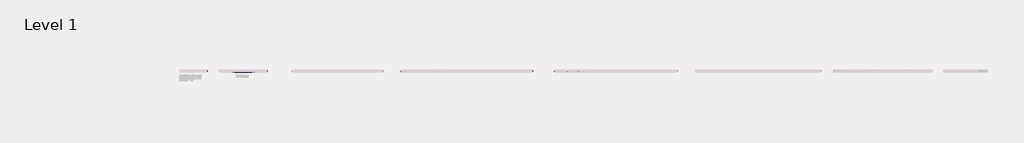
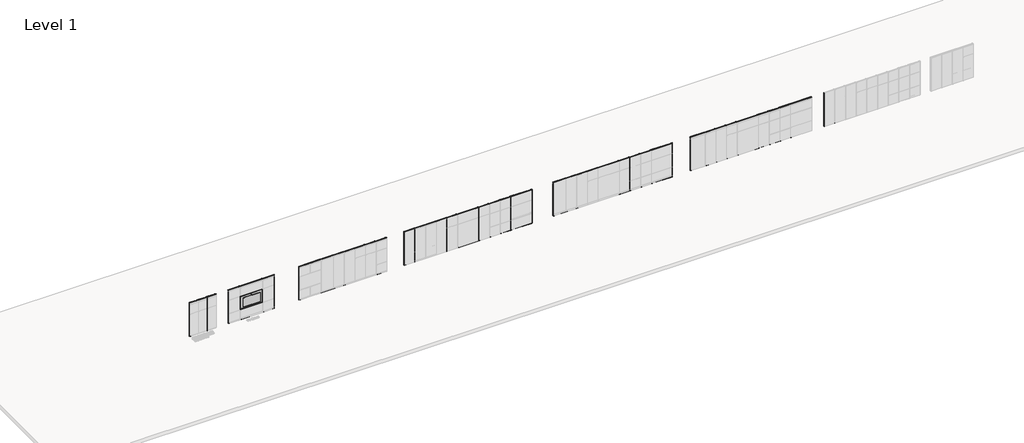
# One storey, part 1 of 22: 128 members, 1 plate.
"""IFC4 building model written with IfcOpenShell, lengths in millimetres."""

from ifc_helpers import new_model, si_unit, origin, place, context, project, spatial, transform, mapped, element, save
from components import rectangular_mullion_b90257fc, rectangular_mullion_eb0fbf71, rectangular_mullion_9c7541e2, rectangular_mullion_d1c44660, rectangular_mullion_44a558e4, rectangular_mullion_a3734a60, rectangular_mullion_c03277eb, rectangular_mullion_1fbba104, rectangular_mullion_acca460e, rectangular_mullion_f8e9f487, rectangular_mullion_f9391e24, rectangular_mullion_204a040b, rectangular_mullion_54c82f83, rectangular_mullion_553b35be, rectangular_mullion_d5ff06bb, rectangular_mullion_663af9d0, rectangular_mullion_43d97840, rectangular_mullion_frame_teknion_vertical_post_4f5934a5, rectangular_mullion_frame_teknion_vertical_post_1a075d46, rectangular_mullion_frame_teknion_vertical_post_dacf658e, rectangular_mullion_frame_teknion_vertical_post_05f5e206, rectangular_mullion_frame_teknion_vertical_post_5ea4eea9, rectangular_mullion_frame_teknion_vertical_post_1fa3a907, plate_87f0cef8

model = new_model("IFC4")

# Units and contexts
model_context = context("Model", 3, world=origin())
ifc_project = project(units=[si_unit("LENGTHUNIT", "METRE", prefix="MILLI")], contexts=[model_context])

# Site, building, storey
site = spatial("IfcSite", under=ifc_project)
building = spatial("IfcBuilding", under=site)
storey = spatial("IfcBuildingStorey", under=building, Name="Level 1", Elevation=0.0)

# Members
placement = place(None, origin())
rectangular_mullion_shape = rectangular_mullion_b90257fc(model_context)
element("IfcMember", 1, ObjectType="Rectangular Mullion : Frame-Teknion-Altos-Base_Channel", at=placement, inside=storey, context=model_context, shape_type="MappedRepresentation", body=[
    mapped(rectangular_mullion_shape, transform((-64490.3890569, 1812.3522105, 0.0), x_axis=(0.0, 0.0, -1.0), y_axis=(0.0, -1.0, 0.0), z_axis=(-1.0, 0.0, 0.0))),
])
rectangular_mullion_2_shape = rectangular_mullion_eb0fbf71(model_context)
element("IfcMember", 2, ObjectType="Rectangular Mullion : Frame-Teknion-Altos-Ceiling_Channel", at=placement, inside=storey, context=model_context, shape_type="MappedRepresentation", body=[
    mapped(rectangular_mullion_2_shape, transform((-63262.3585882, 1812.3522105, 3048.0), x_axis=(0.0, 0.0, 1.0), y_axis=(0.0, -1.0, 0.0), z_axis=(1.0, 0.0, 0.0))),
])
rectangular_mullion_3_shape = rectangular_mullion_9c7541e2(model_context)
element("IfcMember", 3, ObjectType="Rectangular Mullion : Frame-Teknion-Altos-Base_Channel", at=placement, inside=storey, context=model_context, shape_type="MappedRepresentation", body=[
    mapped(rectangular_mullion_3_shape, transform((-76250.5890569, 1812.3522105, 0.0), x_axis=(0.0, 0.0, -1.0), y_axis=(0.0, -1.0, 0.0), z_axis=(-1.0, 0.0, 0.0))),
])
element("IfcMember", 4, ObjectType="Rectangular Mullion : Frame-Teknion-Altos-Ceiling_Channel", at=placement, inside=storey, context=model_context, shape_type="MappedRepresentation", body=[
    mapped(rectangular_mullion_3_shape, transform((-75200.3585882, 1812.3522105, 3048.0), x_axis=(0.0, 0.0, 1.0), y_axis=(0.0, -1.0, 0.0), z_axis=(1.0, 0.0, 0.0))),
])
rectangular_mullion_4_shape = rectangular_mullion_d1c44660(model_context)
element("IfcMember", 5, ObjectType="Rectangular Mullion : Frame-Teknion-Altos-Ceiling_Channel", at=placement, inside=storey, context=model_context, shape_type="MappedRepresentation", body=[
    mapped(rectangular_mullion_4_shape, transform((-95139.3585882, 1812.3522105, 3048.0), x_axis=(0.0, 0.0, 1.0), y_axis=(0.0, -1.0, 0.0), z_axis=(1.0, 0.0, 0.0))),
])
element("IfcMember", 6, ObjectType="Rectangular Mullion : Frame-Teknion-Altos-Base_Channel", at=placement, inside=storey, context=model_context, shape_type="MappedRepresentation", body=[
    mapped(rectangular_mullion_4_shape, transform((-96165.4789007, 1812.3522105, 0.0), x_axis=(0.0, 0.0, -1.0), y_axis=(0.0, -1.0, 0.0), z_axis=(-1.0, 0.0, 0.0))),
])
rectangular_mullion_5_shape = rectangular_mullion_44a558e4(model_context)
element("IfcMember", 7, ObjectType="Rectangular Mullion : Frame-Teknion-Altos-Base_Channel", at=placement, inside=storey, context=model_context, shape_type="MappedRepresentation", body=[
    mapped(rectangular_mullion_5_shape, transform((-98043.7890569, 1812.3522105, 0.0), x_axis=(0.0, 0.0, -1.0), y_axis=(0.0, -1.0, 0.0), z_axis=(-1.0, 0.0, 0.0))),
])
element("IfcMember", 8, ObjectType="Rectangular Mullion : Frame-Teknion-Altos-Ceiling_Channel", at=placement, inside=storey, context=model_context, shape_type="MappedRepresentation", body=[
    mapped(rectangular_mullion_5_shape, transform((-96193.4585882, 1812.3522105, 3048.0), x_axis=(0.0, 0.0, 1.0), y_axis=(0.0, -1.0, 0.0), z_axis=(1.0, 0.0, 0.0))),
])
rectangular_mullion_6_shape = rectangular_mullion_a3734a60(model_context)
element("IfcMember", 9, ObjectType="Rectangular Mullion : Frame-Teknion-Altos-Ceiling_Channel", at=placement, inside=storey, context=model_context, shape_type="MappedRepresentation", body=[
    mapped(rectangular_mullion_6_shape, transform((-101195.0754287, 1812.3522105, 3048.0), x_axis=(0.0, 0.0, 1.0), y_axis=(0.0, 1.0, 0.0), z_axis=(-1.0, 0.0, 0.0))),
])
element("IfcMember", 10, ObjectType="Rectangular Mullion : Frame-Teknion-Altos-Ceiling_Channel", at=placement, inside=storey, context=model_context, shape_type="MappedRepresentation", body=[
    mapped(rectangular_mullion_6_shape, transform((-104141.4754287, 1812.3522105, 3048.0), x_axis=(0.0, 0.0, 1.0), y_axis=(0.0, 1.0, 0.0), z_axis=(-1.0, 0.0, 0.0))),
])
rectangular_mullion_7_shape = rectangular_mullion_c03277eb(model_context)
element("IfcMember", 11, ObjectType="Rectangular Mullion : Frame-Teknion-Altos-Ceiling_Channel", at=placement, inside=storey, context=model_context, shape_type="MappedRepresentation", body=[
    mapped(rectangular_mullion_7_shape, transform((-103125.4754287, 1812.3522105, 3048.0), x_axis=(0.0, 0.0, 1.0), y_axis=(0.0, 1.0, 0.0), z_axis=(-1.0, 0.0, 0.0))),
])
rectangular_mullion_8_shape = rectangular_mullion_1fbba104(model_context)
element("IfcMember", 12, ObjectType="Rectangular Mullion : Frame-Teknion-Altos-Base_Channel", at=placement, inside=storey, context=model_context, shape_type="MappedRepresentation", body=[
    mapped(rectangular_mullion_8_shape, transform((-100207.0551162, 1812.3522105, 0.0), x_axis=(0.0, 0.0, -1.0), y_axis=(0.0, 1.0, 0.0), z_axis=(1.0, 0.0, 0.0))),
])
element("IfcMember", 13, ObjectType="Rectangular Mullion : Frame-Teknion-Altos-Base_Channel", at=placement, inside=storey, context=model_context, shape_type="MappedRepresentation", body=[
    mapped(rectangular_mullion_8_shape, transform((-103139.4652725, 1812.3522105, 0.0), x_axis=(0.0, 0.0, -1.0), y_axis=(0.0, 1.0, 0.0), z_axis=(1.0, 0.0, 0.0))),
])
rectangular_mullion_9_shape = rectangular_mullion_acca460e(model_context)
element("IfcMember", 14, ObjectType="Rectangular Mullion : Frame-Teknion-Altos-Base_Channel", at=placement, inside=storey, context=model_context, shape_type="MappedRepresentation", body=[
    mapped(rectangular_mullion_9_shape, transform((-101209.0652725, 1812.3522105, 0.0), x_axis=(0.0, 0.0, -1.0), y_axis=(0.0, 1.0, 0.0), z_axis=(1.0, 0.0, 0.0))),
])
rectangular_mullion_10_shape = rectangular_mullion_f8e9f487(model_context)
element("IfcMember", 15, ObjectType="Rectangular Mullion : Frame-Teknion-Altos-Ceiling_Channel", at=placement, inside=storey, context=model_context, shape_type="MappedRepresentation", body=[
    mapped(rectangular_mullion_10_shape, transform((-105208.0723087, 1812.3522105, 3048.0), x_axis=(0.0, 0.0, 1.0), y_axis=(0.0, -1.0, 0.0), z_axis=(1.0, 0.0, 0.0))),
])
element("IfcMember", 16, ObjectType="Rectangular Mullion : Frame-Teknion-Altos-Ceiling_Channel", at=placement, inside=storey, context=model_context, shape_type="MappedRepresentation", body=[
    mapped(rectangular_mullion_10_shape, transform((-106718.0824649, 1812.3522105, 3048.0), x_axis=(0.0, 0.0, 1.0), y_axis=(0.0, -1.0, 0.0), z_axis=(1.0, 0.0, 0.0))),
])
rectangular_mullion_11_shape = rectangular_mullion_f9391e24(model_context)
element("IfcMember", 17, ObjectType="Rectangular Mullion : Frame-Teknion-Altos-Base_Channel", at=placement, inside=storey, context=model_context, shape_type="MappedRepresentation", body=[
    mapped(rectangular_mullion_11_shape, transform((-107438.1129337, 1812.3522105, 0.0), x_axis=(0.0, 0.0, -1.0), y_axis=(0.0, -1.0, 0.0), z_axis=(-1.0, 0.0, 0.0))),
])
element("IfcMember", 18, ObjectType="Rectangular Mullion : Frame-Teknion-Altos-Base_Channel", at=placement, inside=storey, context=model_context, shape_type="MappedRepresentation", body=[
    mapped(rectangular_mullion_11_shape, transform((-105928.1027774, 1812.3522105, 0.0), x_axis=(0.0, 0.0, -1.0), y_axis=(0.0, -1.0, 0.0), z_axis=(-1.0, 0.0, 0.0))),
])
rectangular_mullion_12_shape = rectangular_mullion_204a040b(model_context)
element("IfcMember", 19, ObjectType="Rectangular Mullion : Frame-Teknion-Altos-Base_Channel", at=placement, inside=storey, context=model_context, shape_type="MappedRepresentation", body=[
    mapped(rectangular_mullion_12_shape, transform((-106690.1027774, 1812.3522105, 0.0), x_axis=(0.0, 0.0, -1.0), y_axis=(0.0, -1.0, 0.0), z_axis=(-1.0, 0.0, 0.0))),
])
element("IfcMember", 20, ObjectType="Rectangular Mullion : Frame-Teknion-Altos-Ceiling_Channel", at=placement, inside=storey, context=model_context, shape_type="MappedRepresentation", body=[
    mapped(rectangular_mullion_12_shape, transform((-105956.0824649, 1812.3522105, 3048.0), x_axis=(0.0, 0.0, 1.0), y_axis=(0.0, -1.0, 0.0), z_axis=(1.0, 0.0, 0.0))),
])
rectangular_mullion_13_shape = rectangular_mullion_54c82f83(model_context)
element("IfcMember", 21, ObjectType="Rectangular Mullion : Frame-Teknion-Altos-Ceiling_Channel", at=placement, inside=storey, context=model_context, shape_type="MappedRepresentation", body=[
    mapped(rectangular_mullion_13_shape, transform((-90581.3484319, 1812.3522105, 3048.0), x_axis=(0.0, 0.0, 1.0), y_axis=(0.0, -1.0, 0.0), z_axis=(1.0, 0.0, 0.0))),
])
element("IfcMember", 22, ObjectType="Rectangular Mullion : Frame-Teknion-Altos-Ceiling_Channel", at=placement, inside=storey, context=model_context, shape_type="MappedRepresentation", body=[
    mapped(rectangular_mullion_13_shape, transform((-88154.3585882, 1812.3522105, 3048.0), x_axis=(0.0, 0.0, 1.0), y_axis=(0.0, -1.0, 0.0), z_axis=(1.0, 0.0, 0.0))),
])
rectangular_mullion_14_shape = rectangular_mullion_553b35be(model_context)
element("IfcMember", 23, ObjectType="Rectangular Mullion : Frame-Teknion-Altos-Base_Channel", at=placement, inside=storey, context=model_context, shape_type="MappedRepresentation", body=[
    mapped(rectangular_mullion_14_shape, transform((-89026.7890569, 1812.3522105, 0.0), x_axis=(0.0, 0.0, -1.0), y_axis=(0.0, -1.0, 0.0), z_axis=(-1.0, 0.0, 0.0))),
])
element("IfcMember", 24, ObjectType="Rectangular Mullion : Frame-Teknion-Altos-Base_Channel", at=placement, inside=storey, context=model_context, shape_type="MappedRepresentation", body=[
    mapped(rectangular_mullion_14_shape, transform((-53009.5890569, 1812.3522105, 0.0), x_axis=(0.0, 0.0, -1.0), y_axis=(0.0, -1.0, 0.0), z_axis=(-1.0, 0.0, 0.0))),
])
element("IfcMember", 25, ObjectType="Rectangular Mullion : Frame-Teknion-Altos-Base_Channel", at=placement, inside=storey, context=model_context, shape_type="MappedRepresentation", body=[
    mapped(rectangular_mullion_14_shape, transform((-91453.7789007, 1812.3522105, 0.0), x_axis=(0.0, 0.0, -1.0), y_axis=(0.0, -1.0, 0.0), z_axis=(-1.0, 0.0, 0.0))),
])
rectangular_mullion_15_shape = rectangular_mullion_d5ff06bb(model_context)
element("IfcMember", 26, ObjectType="Rectangular Mullion : Frame-Teknion-Altos-Base_Channel", at=placement, inside=storey, context=model_context, shape_type="MappedRepresentation", body=[
    mapped(rectangular_mullion_15_shape, transform((-94196.9789007, 1812.3522105, 0.0), x_axis=(0.0, 0.0, -1.0), y_axis=(0.0, -1.0, 0.0), z_axis=(-1.0, 0.0, 0.0))),
])
element("IfcMember", 27, ObjectType="Rectangular Mullion : Frame-Teknion-Altos-Base_Channel", at=placement, inside=storey, context=model_context, shape_type="MappedRepresentation", body=[
    mapped(rectangular_mullion_15_shape, transform((-93282.5789007, 1812.3522105, 0.0), x_axis=(0.0, 0.0, -1.0), y_axis=(0.0, -1.0, 0.0), z_axis=(-1.0, 0.0, 0.0))),
])
element("IfcMember", 28, ObjectType="Rectangular Mullion : Frame-Teknion-Altos-Base_Channel", at=placement, inside=storey, context=model_context, shape_type="MappedRepresentation", body=[
    mapped(rectangular_mullion_15_shape, transform((-92368.1789007, 1812.3522105, 0.0), x_axis=(0.0, 0.0, -1.0), y_axis=(0.0, -1.0, 0.0), z_axis=(-1.0, 0.0, 0.0))),
])
element("IfcMember", 29, ObjectType="Rectangular Mullion : Frame-Teknion-Altos-Base_Channel", at=placement, inside=storey, context=model_context, shape_type="MappedRepresentation", body=[
    mapped(rectangular_mullion_15_shape, transform((-95111.3789007, 1812.3522105, 0.0), x_axis=(0.0, 0.0, -1.0), y_axis=(0.0, -1.0, 0.0), z_axis=(-1.0, 0.0, 0.0))),
])
element("IfcMember", 30, ObjectType="Rectangular Mullion : Frame-Teknion-Altos-Base_Channel", at=placement, inside=storey, context=model_context, shape_type="MappedRepresentation", body=[
    mapped(rectangular_mullion_15_shape, transform((-86297.5789007, 1812.3522105, 0.0), x_axis=(0.0, 0.0, -1.0), y_axis=(0.0, -1.0, 0.0), z_axis=(-1.0, 0.0, 0.0))),
])
element("IfcMember", 31, ObjectType="Rectangular Mullion : Frame-Teknion-Altos-Base_Channel", at=placement, inside=storey, context=model_context, shape_type="MappedRepresentation", body=[
    mapped(rectangular_mullion_15_shape, transform((-85383.1789007, 1812.3522105, 0.0), x_axis=(0.0, 0.0, -1.0), y_axis=(0.0, -1.0, 0.0), z_axis=(-1.0, 0.0, 0.0))),
])
element("IfcMember", 32, ObjectType="Rectangular Mullion : Frame-Teknion-Altos-Base_Channel", at=placement, inside=storey, context=model_context, shape_type="MappedRepresentation", body=[
    mapped(rectangular_mullion_15_shape, transform((-82639.9789007, 1812.3522105, 0.0), x_axis=(0.0, 0.0, -1.0), y_axis=(0.0, -1.0, 0.0), z_axis=(-1.0, 0.0, 0.0))),
])
element("IfcMember", 33, ObjectType="Rectangular Mullion : Frame-Teknion-Altos-Base_Channel", at=placement, inside=storey, context=model_context, shape_type="MappedRepresentation", body=[
    mapped(rectangular_mullion_15_shape, transform((-81725.5789007, 1812.3522105, 0.0), x_axis=(0.0, 0.0, -1.0), y_axis=(0.0, -1.0, 0.0), z_axis=(-1.0, 0.0, 0.0))),
])
element("IfcMember", 34, ObjectType="Rectangular Mullion : Frame-Teknion-Altos-Base_Channel", at=placement, inside=storey, context=model_context, shape_type="MappedRepresentation", body=[
    mapped(rectangular_mullion_15_shape, transform((-80811.1789007, 1812.3522105, 0.0), x_axis=(0.0, 0.0, -1.0), y_axis=(0.0, -1.0, 0.0), z_axis=(-1.0, 0.0, 0.0))),
])
element("IfcMember", 35, ObjectType="Rectangular Mullion : Frame-Teknion-Altos-Base_Channel", at=placement, inside=storey, context=model_context, shape_type="MappedRepresentation", body=[
    mapped(rectangular_mullion_15_shape, transform((-75172.3789007, 1812.3522105, 0.0), x_axis=(0.0, 0.0, -1.0), y_axis=(0.0, -1.0, 0.0), z_axis=(-1.0, 0.0, 0.0))),
])
element("IfcMember", 36, ObjectType="Rectangular Mullion : Frame-Teknion-Altos-Base_Channel", at=placement, inside=storey, context=model_context, shape_type="MappedRepresentation", body=[
    mapped(rectangular_mullion_15_shape, transform((-74257.9789007, 1812.3522105, 0.0), x_axis=(0.0, 0.0, -1.0), y_axis=(0.0, -1.0, 0.0), z_axis=(-1.0, 0.0, 0.0))),
])
element("IfcMember", 37, ObjectType="Rectangular Mullion : Frame-Teknion-Altos-Base_Channel", at=placement, inside=storey, context=model_context, shape_type="MappedRepresentation", body=[
    mapped(rectangular_mullion_15_shape, transform((-73343.5789007, 1812.3522105, 0.0), x_axis=(0.0, 0.0, -1.0), y_axis=(0.0, -1.0, 0.0), z_axis=(-1.0, 0.0, 0.0))),
])
element("IfcMember", 38, ObjectType="Rectangular Mullion : Frame-Teknion-Altos-Base_Channel", at=placement, inside=storey, context=model_context, shape_type="MappedRepresentation", body=[
    mapped(rectangular_mullion_15_shape, transform((-70600.3789007, 1812.3522105, 0.0), x_axis=(0.0, 0.0, -1.0), y_axis=(0.0, -1.0, 0.0), z_axis=(-1.0, 0.0, 0.0))),
])
element("IfcMember", 39, ObjectType="Rectangular Mullion : Frame-Teknion-Altos-Base_Channel", at=placement, inside=storey, context=model_context, shape_type="MappedRepresentation", body=[
    mapped(rectangular_mullion_15_shape, transform((-69685.9789007, 1812.3522105, 0.0), x_axis=(0.0, 0.0, -1.0), y_axis=(0.0, -1.0, 0.0), z_axis=(-1.0, 0.0, 0.0))),
])
element("IfcMember", 40, ObjectType="Rectangular Mullion : Frame-Teknion-Altos-Base_Channel", at=placement, inside=storey, context=model_context, shape_type="MappedRepresentation", body=[
    mapped(rectangular_mullion_15_shape, transform((-68771.5789007, 1812.3522105, 0.0), x_axis=(0.0, 0.0, -1.0), y_axis=(0.0, -1.0, 0.0), z_axis=(-1.0, 0.0, 0.0))),
])
element("IfcMember", 41, ObjectType="Rectangular Mullion : Frame-Teknion-Altos-Base_Channel", at=placement, inside=storey, context=model_context, shape_type="MappedRepresentation", body=[
    mapped(rectangular_mullion_15_shape, transform((-63234.3789007, 1812.3522105, 0.0), x_axis=(0.0, 0.0, -1.0), y_axis=(0.0, -1.0, 0.0), z_axis=(-1.0, 0.0, 0.0))),
])
element("IfcMember", 42, ObjectType="Rectangular Mullion : Frame-Teknion-Altos-Base_Channel", at=placement, inside=storey, context=model_context, shape_type="MappedRepresentation", body=[
    mapped(rectangular_mullion_15_shape, transform((-62319.9789007, 1812.3522105, 0.0), x_axis=(0.0, 0.0, -1.0), y_axis=(0.0, -1.0, 0.0), z_axis=(-1.0, 0.0, 0.0))),
])
element("IfcMember", 43, ObjectType="Rectangular Mullion : Frame-Teknion-Altos-Base_Channel", at=placement, inside=storey, context=model_context, shape_type="MappedRepresentation", body=[
    mapped(rectangular_mullion_15_shape, transform((-61405.5789007, 1812.3522105, 0.0), x_axis=(0.0, 0.0, -1.0), y_axis=(0.0, -1.0, 0.0), z_axis=(-1.0, 0.0, 0.0))),
])
element("IfcMember", 44, ObjectType="Rectangular Mullion : Frame-Teknion-Altos-Base_Channel", at=placement, inside=storey, context=model_context, shape_type="MappedRepresentation", body=[
    mapped(rectangular_mullion_15_shape, transform((-58662.3789007, 1812.3522105, 0.0), x_axis=(0.0, 0.0, -1.0), y_axis=(0.0, -1.0, 0.0), z_axis=(-1.0, 0.0, 0.0))),
])
element("IfcMember", 45, ObjectType="Rectangular Mullion : Frame-Teknion-Altos-Base_Channel", at=placement, inside=storey, context=model_context, shape_type="MappedRepresentation", body=[
    mapped(rectangular_mullion_15_shape, transform((-57747.9789007, 1812.3522105, 0.0), x_axis=(0.0, 0.0, -1.0), y_axis=(0.0, -1.0, 0.0), z_axis=(-1.0, 0.0, 0.0))),
])
element("IfcMember", 46, ObjectType="Rectangular Mullion : Frame-Teknion-Altos-Base_Channel", at=placement, inside=storey, context=model_context, shape_type="MappedRepresentation", body=[
    mapped(rectangular_mullion_15_shape, transform((-56833.5789007, 1812.3522105, 0.0), x_axis=(0.0, 0.0, -1.0), y_axis=(0.0, -1.0, 0.0), z_axis=(-1.0, 0.0, 0.0))),
])
element("IfcMember", 47, ObjectType="Rectangular Mullion : Frame-Teknion-Altos-Ceiling_Channel", at=placement, inside=storey, context=model_context, shape_type="MappedRepresentation", body=[
    mapped(rectangular_mullion_15_shape, transform((-94224.9585882, 1812.3522105, 3048.0), x_axis=(0.0, 0.0, 1.0), y_axis=(0.0, -1.0, 0.0), z_axis=(1.0, 0.0, 0.0))),
])
element("IfcMember", 48, ObjectType="Rectangular Mullion : Frame-Teknion-Altos-Ceiling_Channel", at=placement, inside=storey, context=model_context, shape_type="MappedRepresentation", body=[
    mapped(rectangular_mullion_15_shape, transform((-93310.5585882, 1812.3522105, 3048.0), x_axis=(0.0, 0.0, 1.0), y_axis=(0.0, -1.0, 0.0), z_axis=(1.0, 0.0, 0.0))),
])
element("IfcMember", 49, ObjectType="Rectangular Mullion : Frame-Teknion-Altos-Ceiling_Channel", at=placement, inside=storey, context=model_context, shape_type="MappedRepresentation", body=[
    mapped(rectangular_mullion_15_shape, transform((-92396.1585882, 1812.3522105, 3048.0), x_axis=(0.0, 0.0, 1.0), y_axis=(0.0, -1.0, 0.0), z_axis=(1.0, 0.0, 0.0))),
])
element("IfcMember", 50, ObjectType="Rectangular Mullion : Frame-Teknion-Altos-Ceiling_Channel", at=placement, inside=storey, context=model_context, shape_type="MappedRepresentation", body=[
    mapped(rectangular_mullion_15_shape, transform((-91481.7585882, 1812.3522105, 3048.0), x_axis=(0.0, 0.0, 1.0), y_axis=(0.0, -1.0, 0.0), z_axis=(1.0, 0.0, 0.0))),
])
element("IfcMember", 51, ObjectType="Rectangular Mullion : Frame-Teknion-Altos-Ceiling_Channel", at=placement, inside=storey, context=model_context, shape_type="MappedRepresentation", body=[
    mapped(rectangular_mullion_15_shape, transform((-85411.1585882, 1812.3522105, 3048.0), x_axis=(0.0, 0.0, 1.0), y_axis=(0.0, -1.0, 0.0), z_axis=(1.0, 0.0, 0.0))),
])
element("IfcMember", 52, ObjectType="Rectangular Mullion : Frame-Teknion-Altos-Ceiling_Channel", at=placement, inside=storey, context=model_context, shape_type="MappedRepresentation", body=[
    mapped(rectangular_mullion_15_shape, transform((-84496.7585882, 1812.3522105, 3048.0), x_axis=(0.0, 0.0, 1.0), y_axis=(0.0, -1.0, 0.0), z_axis=(1.0, 0.0, 0.0))),
])
element("IfcMember", 53, ObjectType="Rectangular Mullion : Frame-Teknion-Altos-Ceiling_Channel", at=placement, inside=storey, context=model_context, shape_type="MappedRepresentation", body=[
    mapped(rectangular_mullion_15_shape, transform((-81753.5585882, 1812.3522105, 3048.0), x_axis=(0.0, 0.0, 1.0), y_axis=(0.0, -1.0, 0.0), z_axis=(1.0, 0.0, 0.0))),
])
element("IfcMember", 54, ObjectType="Rectangular Mullion : Frame-Teknion-Altos-Ceiling_Channel", at=placement, inside=storey, context=model_context, shape_type="MappedRepresentation", body=[
    mapped(rectangular_mullion_15_shape, transform((-79924.7585882, 1812.3522105, 3048.0), x_axis=(0.0, 0.0, 1.0), y_axis=(0.0, -1.0, 0.0), z_axis=(1.0, 0.0, 0.0))),
])
element("IfcMember", 55, ObjectType="Rectangular Mullion : Frame-Teknion-Altos-Ceiling_Channel", at=placement, inside=storey, context=model_context, shape_type="MappedRepresentation", body=[
    mapped(rectangular_mullion_15_shape, transform((-80839.1585882, 1812.3522105, 3048.0), x_axis=(0.0, 0.0, 1.0), y_axis=(0.0, -1.0, 0.0), z_axis=(1.0, 0.0, 0.0))),
])
element("IfcMember", 56, ObjectType="Rectangular Mullion : Frame-Teknion-Altos-Ceiling_Channel", at=placement, inside=storey, context=model_context, shape_type="MappedRepresentation", body=[
    mapped(rectangular_mullion_15_shape, transform((-74285.9585882, 1812.3522105, 3048.0), x_axis=(0.0, 0.0, 1.0), y_axis=(0.0, -1.0, 0.0), z_axis=(1.0, 0.0, 0.0))),
])
element("IfcMember", 57, ObjectType="Rectangular Mullion : Frame-Teknion-Altos-Ceiling_Channel", at=placement, inside=storey, context=model_context, shape_type="MappedRepresentation", body=[
    mapped(rectangular_mullion_15_shape, transform((-73371.5585882, 1812.3522105, 3048.0), x_axis=(0.0, 0.0, 1.0), y_axis=(0.0, -1.0, 0.0), z_axis=(1.0, 0.0, 0.0))),
])
element("IfcMember", 58, ObjectType="Rectangular Mullion : Frame-Teknion-Altos-Ceiling_Channel", at=placement, inside=storey, context=model_context, shape_type="MappedRepresentation", body=[
    mapped(rectangular_mullion_15_shape, transform((-72457.1585882, 1812.3522105, 3048.0), x_axis=(0.0, 0.0, 1.0), y_axis=(0.0, -1.0, 0.0), z_axis=(1.0, 0.0, 0.0))),
])
element("IfcMember", 59, ObjectType="Rectangular Mullion : Frame-Teknion-Altos-Ceiling_Channel", at=placement, inside=storey, context=model_context, shape_type="MappedRepresentation", body=[
    mapped(rectangular_mullion_15_shape, transform((-69713.9585882, 1812.3522105, 3048.0), x_axis=(0.0, 0.0, 1.0), y_axis=(0.0, -1.0, 0.0), z_axis=(1.0, 0.0, 0.0))),
])
element("IfcMember", 60, ObjectType="Rectangular Mullion : Frame-Teknion-Altos-Ceiling_Channel", at=placement, inside=storey, context=model_context, shape_type="MappedRepresentation", body=[
    mapped(rectangular_mullion_15_shape, transform((-68799.5585882, 1812.3522105, 3048.0), x_axis=(0.0, 0.0, 1.0), y_axis=(0.0, -1.0, 0.0), z_axis=(1.0, 0.0, 0.0))),
])
element("IfcMember", 61, ObjectType="Rectangular Mullion : Frame-Teknion-Altos-Ceiling_Channel", at=placement, inside=storey, context=model_context, shape_type="MappedRepresentation", body=[
    mapped(rectangular_mullion_15_shape, transform((-67885.1585882, 1812.3522105, 3048.0), x_axis=(0.0, 0.0, 1.0), y_axis=(0.0, -1.0, 0.0), z_axis=(1.0, 0.0, 0.0))),
])
element("IfcMember", 62, ObjectType="Rectangular Mullion : Frame-Teknion-Altos-Ceiling_Channel", at=placement, inside=storey, context=model_context, shape_type="MappedRepresentation", body=[
    mapped(rectangular_mullion_15_shape, transform((-62347.9585882, 1812.3522105, 3048.0), x_axis=(0.0, 0.0, 1.0), y_axis=(0.0, -1.0, 0.0), z_axis=(1.0, 0.0, 0.0))),
])
element("IfcMember", 63, ObjectType="Rectangular Mullion : Frame-Teknion-Altos-Ceiling_Channel", at=placement, inside=storey, context=model_context, shape_type="MappedRepresentation", body=[
    mapped(rectangular_mullion_15_shape, transform((-61433.5585882, 1812.3522105, 3048.0), x_axis=(0.0, 0.0, 1.0), y_axis=(0.0, -1.0, 0.0), z_axis=(1.0, 0.0, 0.0))),
])
element("IfcMember", 64, ObjectType="Rectangular Mullion : Frame-Teknion-Altos-Ceiling_Channel", at=placement, inside=storey, context=model_context, shape_type="MappedRepresentation", body=[
    mapped(rectangular_mullion_15_shape, transform((-60519.1585882, 1812.3522105, 3048.0), x_axis=(0.0, 0.0, 1.0), y_axis=(0.0, -1.0, 0.0), z_axis=(1.0, 0.0, 0.0))),
])
element("IfcMember", 65, ObjectType="Rectangular Mullion : Frame-Teknion-Altos-Ceiling_Channel", at=placement, inside=storey, context=model_context, shape_type="MappedRepresentation", body=[
    mapped(rectangular_mullion_15_shape, transform((-57775.9585882, 1812.3522105, 3048.0), x_axis=(0.0, 0.0, 1.0), y_axis=(0.0, -1.0, 0.0), z_axis=(1.0, 0.0, 0.0))),
])
element("IfcMember", 66, ObjectType="Rectangular Mullion : Frame-Teknion-Altos-Ceiling_Channel", at=placement, inside=storey, context=model_context, shape_type="MappedRepresentation", body=[
    mapped(rectangular_mullion_15_shape, transform((-56861.5585882, 1812.3522105, 3048.0), x_axis=(0.0, 0.0, 1.0), y_axis=(0.0, -1.0, 0.0), z_axis=(1.0, 0.0, 0.0))),
])
element("IfcMember", 67, ObjectType="Rectangular Mullion : Frame-Teknion-Altos-Ceiling_Channel", at=placement, inside=storey, context=model_context, shape_type="MappedRepresentation", body=[
    mapped(rectangular_mullion_15_shape, transform((-55947.1585882, 1812.3522105, 3048.0), x_axis=(0.0, 0.0, 1.0), y_axis=(0.0, -1.0, 0.0), z_axis=(1.0, 0.0, 0.0))),
])
rectangular_mullion_16_shape = rectangular_mullion_663af9d0(model_context)
element("IfcMember", 68, ObjectType="Rectangular Mullion : Frame-Teknion-Altos-Ceiling_Channel", at=placement, inside=storey, context=model_context, shape_type="MappedRepresentation", body=[
    mapped(rectangular_mullion_16_shape, transform((-78109.9484319, 1812.3522105, 3048.0), x_axis=(0.0, 0.0, 1.0), y_axis=(0.0, -1.0, 0.0), z_axis=(1.0, 0.0, 0.0))),
])
element("IfcMember", 69, ObjectType="Rectangular Mullion : Frame-Teknion-Altos-Ceiling_Channel", at=placement, inside=storey, context=model_context, shape_type="MappedRepresentation", body=[
    mapped(rectangular_mullion_16_shape, transform((-66070.3484319, 1812.3522105, 3048.0), x_axis=(0.0, 0.0, 1.0), y_axis=(0.0, -1.0, 0.0), z_axis=(1.0, 0.0, 0.0))),
])
element("IfcMember", 70, ObjectType="Rectangular Mullion : Frame-Teknion-Altos-Ceiling_Channel", at=placement, inside=storey, context=model_context, shape_type="MappedRepresentation", body=[
    mapped(rectangular_mullion_16_shape, transform((-54132.3484319, 1812.3522105, 3048.0), x_axis=(0.0, 0.0, 1.0), y_axis=(0.0, -1.0, 0.0), z_axis=(1.0, 0.0, 0.0))),
])
element("IfcMember", 71, ObjectType="Rectangular Mullion : Frame-Teknion-Altos-Base_Channel", at=placement, inside=storey, context=model_context, shape_type="MappedRepresentation", body=[
    mapped(rectangular_mullion_16_shape, transform((-79896.7789007, 1812.3522105, 0.0), x_axis=(0.0, 0.0, -1.0), y_axis=(0.0, -1.0, 0.0), z_axis=(-1.0, 0.0, 0.0))),
])
element("IfcMember", 72, ObjectType="Rectangular Mullion : Frame-Teknion-Altos-Base_Channel", at=placement, inside=storey, context=model_context, shape_type="MappedRepresentation", body=[
    mapped(rectangular_mullion_16_shape, transform((-67857.1789007, 1812.3522105, 0.0), x_axis=(0.0, 0.0, -1.0), y_axis=(0.0, -1.0, 0.0), z_axis=(-1.0, 0.0, 0.0))),
])
element("IfcMember", 73, ObjectType="Rectangular Mullion : Frame-Teknion-Altos-Base_Channel", at=placement, inside=storey, context=model_context, shape_type="MappedRepresentation", body=[
    mapped(rectangular_mullion_16_shape, transform((-55919.1789007, 1812.3522105, 0.0), x_axis=(0.0, 0.0, -1.0), y_axis=(0.0, -1.0, 0.0), z_axis=(-1.0, 0.0, 0.0))),
])
rectangular_mullion_17_shape = rectangular_mullion_43d97840(model_context)
element("IfcMember", 74, ObjectType="Rectangular Mullion : Frame-Teknion-Altos-Base_Channel", at=placement, inside=storey, context=model_context, shape_type="MappedRepresentation", body=[
    mapped(rectangular_mullion_17_shape, transform((-84468.7789007, 1812.3522105, 0.0), x_axis=(0.0, 0.0, -1.0), y_axis=(0.0, -1.0, 0.0), z_axis=(-1.0, 0.0, 0.0))),
])
element("IfcMember", 75, ObjectType="Rectangular Mullion : Frame-Teknion-Altos-Base_Channel", at=placement, inside=storey, context=model_context, shape_type="MappedRepresentation", body=[
    mapped(rectangular_mullion_17_shape, transform((-88126.3789007, 1812.3522105, 0.0), x_axis=(0.0, 0.0, -1.0), y_axis=(0.0, -1.0, 0.0), z_axis=(-1.0, 0.0, 0.0))),
])
element("IfcMember", 76, ObjectType="Rectangular Mullion : Frame-Teknion-Altos-Base_Channel", at=placement, inside=storey, context=model_context, shape_type="MappedRepresentation", body=[
    mapped(rectangular_mullion_17_shape, transform((-72429.1789007, 1812.3522105, 0.0), x_axis=(0.0, 0.0, -1.0), y_axis=(0.0, -1.0, 0.0), z_axis=(-1.0, 0.0, 0.0))),
])
element("IfcMember", 77, ObjectType="Rectangular Mullion : Frame-Teknion-Altos-Base_Channel", at=placement, inside=storey, context=model_context, shape_type="MappedRepresentation", body=[
    mapped(rectangular_mullion_17_shape, transform((-60491.1789007, 1812.3522105, 0.0), x_axis=(0.0, 0.0, -1.0), y_axis=(0.0, -1.0, 0.0), z_axis=(-1.0, 0.0, 0.0))),
])
element("IfcMember", 78, ObjectType="Rectangular Mullion : Frame-Teknion-Altos-Ceiling_Channel", at=placement, inside=storey, context=model_context, shape_type="MappedRepresentation", body=[
    mapped(rectangular_mullion_17_shape, transform((-86325.5585882, 1812.3522105, 3048.0), x_axis=(0.0, 0.0, 1.0), y_axis=(0.0, -1.0, 0.0), z_axis=(1.0, 0.0, 0.0))),
])
element("IfcMember", 79, ObjectType="Rectangular Mullion : Frame-Teknion-Altos-Ceiling_Channel", at=placement, inside=storey, context=model_context, shape_type="MappedRepresentation", body=[
    mapped(rectangular_mullion_17_shape, transform((-82667.9585882, 1812.3522105, 3048.0), x_axis=(0.0, 0.0, 1.0), y_axis=(0.0, -1.0, 0.0), z_axis=(1.0, 0.0, 0.0))),
])
element("IfcMember", 80, ObjectType="Rectangular Mullion : Frame-Teknion-Altos-Ceiling_Channel", at=placement, inside=storey, context=model_context, shape_type="MappedRepresentation", body=[
    mapped(rectangular_mullion_17_shape, transform((-70628.3585882, 1812.3522105, 3048.0), x_axis=(0.0, 0.0, 1.0), y_axis=(0.0, -1.0, 0.0), z_axis=(1.0, 0.0, 0.0))),
])
element("IfcMember", 81, ObjectType="Rectangular Mullion : Frame-Teknion-Altos-Ceiling_Channel", at=placement, inside=storey, context=model_context, shape_type="MappedRepresentation", body=[
    mapped(rectangular_mullion_17_shape, transform((-58690.3585882, 1812.3522105, 3048.0), x_axis=(0.0, 0.0, 1.0), y_axis=(0.0, -1.0, 0.0), z_axis=(1.0, 0.0, 0.0))),
])
rectangular_mullion_frame_teknion_vertical_post_shape = rectangular_mullion_frame_teknion_vertical_post_4f5934a5(model_context)
element("IfcMember", 82, ObjectType="Rectangular Mullion : Frame-Teknion-Vertical_Post", at=placement, inside=storey, context=model_context, shape_type="MappedRepresentation", body=[
    mapped(rectangular_mullion_frame_teknion_vertical_post_shape, transform((-103125.4754287, 1812.3522105, 0.0), x_axis=(-1.0, 0.0, 0.0), y_axis=(0.0, 1.0, 0.0), z_axis=(0.0, 0.0, -1.0))),
])
element("IfcMember", 83, ObjectType="Rectangular Mullion : Frame-Teknion-Vertical_Post", at=placement, inside=storey, context=model_context, shape_type="MappedRepresentation", body=[
    mapped(rectangular_mullion_frame_teknion_vertical_post_shape, transform((-101195.0754287, 1812.3522105, 0.0), x_axis=(-1.0, 0.0, 0.0), y_axis=(0.0, 1.0, 0.0), z_axis=(0.0, 0.0, -1.0))),
])
rectangular_mullion_frame_teknion_vertical_post_2_shape = rectangular_mullion_frame_teknion_vertical_post_1a075d46(model_context)
element("IfcMember", 84, ObjectType="Rectangular Mullion : Frame-Teknion-Vertical_Post", at=placement, inside=storey, context=model_context, shape_type="MappedRepresentation", body=[
    mapped(rectangular_mullion_frame_teknion_vertical_post_2_shape, transform((-104141.4754287, 1812.3522105, 0.0), x_axis=(-1.0, 0.0, 0.0), y_axis=(0.0, 1.0, 0.0), z_axis=(0.0, 0.0, -1.0))),
])
rectangular_mullion_frame_teknion_vertical_post_3_shape = rectangular_mullion_frame_teknion_vertical_post_dacf658e(model_context)
element("IfcMember", 85, ObjectType="Rectangular Mullion : Frame-Teknion-Vertical_Post", at=placement, inside=storey, context=model_context, shape_type="MappedRepresentation", body=[
    mapped(rectangular_mullion_frame_teknion_vertical_post_3_shape, transform((-100179.0754287, 1812.3522105, 3024.6835937), x_axis=(1.0, 0.0, 0.0), y_axis=(0.0, 1.0, 0.0), z_axis=(0.0, 0.0, 1.0))),
])
rectangular_mullion_frame_teknion_vertical_post_4_shape = rectangular_mullion_frame_teknion_vertical_post_05f5e206(model_context)
element("IfcMember", 86, ObjectType="Rectangular Mullion : Frame-Teknion-Vertical_Post", at=placement, inside=storey, context=model_context, shape_type="MappedRepresentation", body=[
    mapped(rectangular_mullion_frame_teknion_vertical_post_4_shape, transform((-94210.9687444, 1812.3522105, 0.0), x_axis=(1.0, 0.0, 0.0), y_axis=(0.0, -1.0, 0.0), z_axis=(0.0, 0.0, -1.0))),
])
element("IfcMember", 87, ObjectType="Rectangular Mullion : Frame-Teknion-Vertical_Post", at=placement, inside=storey, context=model_context, shape_type="MappedRepresentation", body=[
    mapped(rectangular_mullion_frame_teknion_vertical_post_4_shape, transform((-93296.5687444, 1812.3522105, 0.0), x_axis=(1.0, 0.0, 0.0), y_axis=(0.0, -1.0, 0.0), z_axis=(0.0, 0.0, -1.0))),
])
element("IfcMember", 88, ObjectType="Rectangular Mullion : Frame-Teknion-Vertical_Post", at=placement, inside=storey, context=model_context, shape_type="MappedRepresentation", body=[
    mapped(rectangular_mullion_frame_teknion_vertical_post_4_shape, transform((-92382.1687444, 1812.3522105, 0.0), x_axis=(1.0, 0.0, 0.0), y_axis=(0.0, -1.0, 0.0), z_axis=(0.0, 0.0, -1.0))),
])
element("IfcMember", 89, ObjectType="Rectangular Mullion : Frame-Teknion-Vertical_Post", at=placement, inside=storey, context=model_context, shape_type="MappedRepresentation", body=[
    mapped(rectangular_mullion_frame_teknion_vertical_post_4_shape, transform((-91467.7687444, 1812.3522105, 0.0), x_axis=(1.0, 0.0, 0.0), y_axis=(0.0, -1.0, 0.0), z_axis=(0.0, 0.0, -1.0))),
])
element("IfcMember", 90, ObjectType="Rectangular Mullion : Frame-Teknion-Vertical_Post", at=placement, inside=storey, context=model_context, shape_type="MappedRepresentation", body=[
    mapped(rectangular_mullion_frame_teknion_vertical_post_4_shape, transform((-95125.3687444, 1812.3522105, 0.0), x_axis=(1.0, 0.0, 0.0), y_axis=(0.0, -1.0, 0.0), z_axis=(0.0, 0.0, -1.0))),
])
element("IfcMember", 91, ObjectType="Rectangular Mullion : Frame-Teknion-Vertical_Post", at=placement, inside=storey, context=model_context, shape_type="MappedRepresentation", body=[
    mapped(rectangular_mullion_frame_teknion_vertical_post_4_shape, transform((-86311.5687444, 1812.3522105, 0.0), x_axis=(1.0, 0.0, 0.0), y_axis=(0.0, -1.0, 0.0), z_axis=(0.0, 0.0, -1.0))),
])
element("IfcMember", 92, ObjectType="Rectangular Mullion : Frame-Teknion-Vertical_Post", at=placement, inside=storey, context=model_context, shape_type="MappedRepresentation", body=[
    mapped(rectangular_mullion_frame_teknion_vertical_post_4_shape, transform((-85397.1687444, 1812.3522105, 0.0), x_axis=(1.0, 0.0, 0.0), y_axis=(0.0, -1.0, 0.0), z_axis=(0.0, 0.0, -1.0))),
])
element("IfcMember", 93, ObjectType="Rectangular Mullion : Frame-Teknion-Vertical_Post", at=placement, inside=storey, context=model_context, shape_type="MappedRepresentation", body=[
    mapped(rectangular_mullion_frame_teknion_vertical_post_4_shape, transform((-84482.7687444, 1812.3522105, 0.0), x_axis=(1.0, 0.0, 0.0), y_axis=(0.0, -1.0, 0.0), z_axis=(0.0, 0.0, -1.0))),
])
element("IfcMember", 94, ObjectType="Rectangular Mullion : Frame-Teknion-Vertical_Post", at=placement, inside=storey, context=model_context, shape_type="MappedRepresentation", body=[
    mapped(rectangular_mullion_frame_teknion_vertical_post_4_shape, transform((-82653.9687444, 1812.3522105, 0.0), x_axis=(1.0, 0.0, 0.0), y_axis=(0.0, -1.0, 0.0), z_axis=(0.0, 0.0, -1.0))),
])
element("IfcMember", 95, ObjectType="Rectangular Mullion : Frame-Teknion-Vertical_Post", at=placement, inside=storey, context=model_context, shape_type="MappedRepresentation", body=[
    mapped(rectangular_mullion_frame_teknion_vertical_post_4_shape, transform((-81739.5687444, 1812.3522105, 0.0), x_axis=(1.0, 0.0, 0.0), y_axis=(0.0, -1.0, 0.0), z_axis=(0.0, 0.0, -1.0))),
])
element("IfcMember", 96, ObjectType="Rectangular Mullion : Frame-Teknion-Vertical_Post", at=placement, inside=storey, context=model_context, shape_type="MappedRepresentation", body=[
    mapped(rectangular_mullion_frame_teknion_vertical_post_4_shape, transform((-79910.7687444, 1812.3522105, 0.0), x_axis=(1.0, 0.0, 0.0), y_axis=(0.0, -1.0, 0.0), z_axis=(0.0, 0.0, -1.0))),
])
element("IfcMember", 97, ObjectType="Rectangular Mullion : Frame-Teknion-Vertical_Post", at=placement, inside=storey, context=model_context, shape_type="MappedRepresentation", body=[
    mapped(rectangular_mullion_frame_teknion_vertical_post_4_shape, transform((-80825.1687444, 1812.3522105, 0.0), x_axis=(1.0, 0.0, 0.0), y_axis=(0.0, -1.0, 0.0), z_axis=(0.0, 0.0, -1.0))),
])
element("IfcMember", 98, ObjectType="Rectangular Mullion : Frame-Teknion-Vertical_Post", at=placement, inside=storey, context=model_context, shape_type="MappedRepresentation", body=[
    mapped(rectangular_mullion_frame_teknion_vertical_post_4_shape, transform((-88140.3687444, 1812.3522105, 0.0), x_axis=(1.0, 0.0, 0.0), y_axis=(0.0, -1.0, 0.0), z_axis=(0.0, 0.0, -1.0))),
])
element("IfcMember", 99, ObjectType="Rectangular Mullion : Frame-Teknion-Vertical_Post", at=placement, inside=storey, context=model_context, shape_type="MappedRepresentation", body=[
    mapped(rectangular_mullion_frame_teknion_vertical_post_4_shape, transform((-75186.3687444, 1812.3522105, 0.0), x_axis=(1.0, 0.0, 0.0), y_axis=(0.0, -1.0, 0.0), z_axis=(0.0, 0.0, -1.0))),
])
element("IfcMember", 100, ObjectType="Rectangular Mullion : Frame-Teknion-Vertical_Post", at=placement, inside=storey, context=model_context, shape_type="MappedRepresentation", body=[
    mapped(rectangular_mullion_frame_teknion_vertical_post_4_shape, transform((-74271.9687444, 1812.3522105, 0.0), x_axis=(1.0, 0.0, 0.0), y_axis=(0.0, -1.0, 0.0), z_axis=(0.0, 0.0, -1.0))),
])
element("IfcMember", 101, ObjectType="Rectangular Mullion : Frame-Teknion-Vertical_Post", at=placement, inside=storey, context=model_context, shape_type="MappedRepresentation", body=[
    mapped(rectangular_mullion_frame_teknion_vertical_post_4_shape, transform((-73357.5687444, 1812.3522105, 0.0), x_axis=(1.0, 0.0, 0.0), y_axis=(0.0, -1.0, 0.0), z_axis=(0.0, 0.0, -1.0))),
])
element("IfcMember", 102, ObjectType="Rectangular Mullion : Frame-Teknion-Vertical_Post", at=placement, inside=storey, context=model_context, shape_type="MappedRepresentation", body=[
    mapped(rectangular_mullion_frame_teknion_vertical_post_4_shape, transform((-72443.1687444, 1812.3522105, 0.0), x_axis=(1.0, 0.0, 0.0), y_axis=(0.0, -1.0, 0.0), z_axis=(0.0, 0.0, -1.0))),
])
element("IfcMember", 103, ObjectType="Rectangular Mullion : Frame-Teknion-Vertical_Post", at=placement, inside=storey, context=model_context, shape_type="MappedRepresentation", body=[
    mapped(rectangular_mullion_frame_teknion_vertical_post_4_shape, transform((-70614.3687444, 1812.3522105, 0.0), x_axis=(1.0, 0.0, 0.0), y_axis=(0.0, -1.0, 0.0), z_axis=(0.0, 0.0, -1.0))),
])
element("IfcMember", 104, ObjectType="Rectangular Mullion : Frame-Teknion-Vertical_Post", at=placement, inside=storey, context=model_context, shape_type="MappedRepresentation", body=[
    mapped(rectangular_mullion_frame_teknion_vertical_post_4_shape, transform((-69699.9687444, 1812.3522105, 0.0), x_axis=(1.0, 0.0, 0.0), y_axis=(0.0, -1.0, 0.0), z_axis=(0.0, 0.0, -1.0))),
])
element("IfcMember", 105, ObjectType="Rectangular Mullion : Frame-Teknion-Vertical_Post", at=placement, inside=storey, context=model_context, shape_type="MappedRepresentation", body=[
    mapped(rectangular_mullion_frame_teknion_vertical_post_4_shape, transform((-68785.5687444, 1812.3522105, 0.0), x_axis=(1.0, 0.0, 0.0), y_axis=(0.0, -1.0, 0.0), z_axis=(0.0, 0.0, -1.0))),
])
element("IfcMember", 106, ObjectType="Rectangular Mullion : Frame-Teknion-Vertical_Post", at=placement, inside=storey, context=model_context, shape_type="MappedRepresentation", body=[
    mapped(rectangular_mullion_frame_teknion_vertical_post_4_shape, transform((-67871.1687444, 1812.3522105, 0.0), x_axis=(1.0, 0.0, 0.0), y_axis=(0.0, -1.0, 0.0), z_axis=(0.0, 0.0, -1.0))),
])
element("IfcMember", 107, ObjectType="Rectangular Mullion : Frame-Teknion-Vertical_Post", at=placement, inside=storey, context=model_context, shape_type="MappedRepresentation", body=[
    mapped(rectangular_mullion_frame_teknion_vertical_post_4_shape, transform((-63248.3687444, 1812.3522105, 0.0), x_axis=(1.0, 0.0, 0.0), y_axis=(0.0, -1.0, 0.0), z_axis=(0.0, 0.0, -1.0))),
])
element("IfcMember", 108, ObjectType="Rectangular Mullion : Frame-Teknion-Vertical_Post", at=placement, inside=storey, context=model_context, shape_type="MappedRepresentation", body=[
    mapped(rectangular_mullion_frame_teknion_vertical_post_4_shape, transform((-62333.9687444, 1812.3522105, 0.0), x_axis=(1.0, 0.0, 0.0), y_axis=(0.0, -1.0, 0.0), z_axis=(0.0, 0.0, -1.0))),
])
element("IfcMember", 109, ObjectType="Rectangular Mullion : Frame-Teknion-Vertical_Post", at=placement, inside=storey, context=model_context, shape_type="MappedRepresentation", body=[
    mapped(rectangular_mullion_frame_teknion_vertical_post_4_shape, transform((-61419.5687444, 1812.3522105, 0.0), x_axis=(1.0, 0.0, 0.0), y_axis=(0.0, -1.0, 0.0), z_axis=(0.0, 0.0, -1.0))),
])
element("IfcMember", 110, ObjectType="Rectangular Mullion : Frame-Teknion-Vertical_Post", at=placement, inside=storey, context=model_context, shape_type="MappedRepresentation", body=[
    mapped(rectangular_mullion_frame_teknion_vertical_post_4_shape, transform((-60505.1687444, 1812.3522105, 0.0), x_axis=(1.0, 0.0, 0.0), y_axis=(0.0, -1.0, 0.0), z_axis=(0.0, 0.0, -1.0))),
])
element("IfcMember", 111, ObjectType="Rectangular Mullion : Frame-Teknion-Vertical_Post", at=placement, inside=storey, context=model_context, shape_type="MappedRepresentation", body=[
    mapped(rectangular_mullion_frame_teknion_vertical_post_4_shape, transform((-58676.3687444, 1812.3522105, 0.0), x_axis=(1.0, 0.0, 0.0), y_axis=(0.0, -1.0, 0.0), z_axis=(0.0, 0.0, -1.0))),
])
element("IfcMember", 112, ObjectType="Rectangular Mullion : Frame-Teknion-Vertical_Post", at=placement, inside=storey, context=model_context, shape_type="MappedRepresentation", body=[
    mapped(rectangular_mullion_frame_teknion_vertical_post_4_shape, transform((-57761.9687444, 1812.3522105, 0.0), x_axis=(1.0, 0.0, 0.0), y_axis=(0.0, -1.0, 0.0), z_axis=(0.0, 0.0, -1.0))),
])
element("IfcMember", 113, ObjectType="Rectangular Mullion : Frame-Teknion-Vertical_Post", at=placement, inside=storey, context=model_context, shape_type="MappedRepresentation", body=[
    mapped(rectangular_mullion_frame_teknion_vertical_post_4_shape, transform((-56847.5687444, 1812.3522105, 0.0), x_axis=(1.0, 0.0, 0.0), y_axis=(0.0, -1.0, 0.0), z_axis=(0.0, 0.0, -1.0))),
])
element("IfcMember", 114, ObjectType="Rectangular Mullion : Frame-Teknion-Vertical_Post", at=placement, inside=storey, context=model_context, shape_type="MappedRepresentation", body=[
    mapped(rectangular_mullion_frame_teknion_vertical_post_4_shape, transform((-55933.1687444, 1812.3522105, 0.0), x_axis=(1.0, 0.0, 0.0), y_axis=(0.0, -1.0, 0.0), z_axis=(0.0, 0.0, -1.0))),
])
element("IfcMember", 115, ObjectType="Rectangular Mullion : Frame-Teknion-Vertical_Post", at=placement, inside=storey, context=model_context, shape_type="MappedRepresentation", body=[
    mapped(rectangular_mullion_frame_teknion_vertical_post_4_shape, transform((-96179.4687444, 1812.3522105, 0.0), x_axis=(1.0, 0.0, 0.0), y_axis=(0.0, -1.0, 0.0), z_axis=(0.0, 0.0, -1.0))),
])
element("IfcMember", 116, ObjectType="Rectangular Mullion : Frame-Teknion-Vertical_Post", at=placement, inside=storey, context=model_context, shape_type="MappedRepresentation", body=[
    mapped(rectangular_mullion_frame_teknion_vertical_post_4_shape, transform((-106704.0926212, 1812.3522105, 0.0), x_axis=(1.0, 0.0, 0.0), y_axis=(0.0, -1.0, 0.0), z_axis=(0.0, 0.0, -1.0))),
])
element("IfcMember", 117, ObjectType="Rectangular Mullion : Frame-Teknion-Vertical_Post", at=placement, inside=storey, context=model_context, shape_type="MappedRepresentation", body=[
    mapped(rectangular_mullion_frame_teknion_vertical_post_4_shape, transform((-105942.0926212, 1812.3522105, 0.0), x_axis=(1.0, 0.0, 0.0), y_axis=(0.0, -1.0, 0.0), z_axis=(0.0, 0.0, -1.0))),
])
rectangular_mullion_frame_teknion_vertical_post_5_shape = rectangular_mullion_frame_teknion_vertical_post_5ea4eea9(model_context)
element("IfcMember", 118, ObjectType="Rectangular Mullion : Frame-Teknion-Vertical_Post", at=placement, inside=storey, context=model_context, shape_type="MappedRepresentation", body=[
    mapped(rectangular_mullion_frame_teknion_vertical_post_5_shape, transform((-90553.3687444, 1812.3522105, 0.0), x_axis=(1.0, 0.0, 0.0), y_axis=(0.0, -1.0, 0.0), z_axis=(0.0, 0.0, -1.0))),
])
element("IfcMember", 119, ObjectType="Rectangular Mullion : Frame-Teknion-Vertical_Post", at=placement, inside=storey, context=model_context, shape_type="MappedRepresentation", body=[
    mapped(rectangular_mullion_frame_teknion_vertical_post_5_shape, transform((-78081.9687444, 1812.3522105, 0.0), x_axis=(1.0, 0.0, 0.0), y_axis=(0.0, -1.0, 0.0), z_axis=(0.0, 0.0, -1.0))),
])
element("IfcMember", 120, ObjectType="Rectangular Mullion : Frame-Teknion-Vertical_Post", at=placement, inside=storey, context=model_context, shape_type="MappedRepresentation", body=[
    mapped(rectangular_mullion_frame_teknion_vertical_post_5_shape, transform((-66042.3687444, 1812.3522105, 0.0), x_axis=(1.0, 0.0, 0.0), y_axis=(0.0, -1.0, 0.0), z_axis=(0.0, 0.0, -1.0))),
])
element("IfcMember", 121, ObjectType="Rectangular Mullion : Frame-Teknion-Vertical_Post", at=placement, inside=storey, context=model_context, shape_type="MappedRepresentation", body=[
    mapped(rectangular_mullion_frame_teknion_vertical_post_5_shape, transform((-54104.3687444, 1812.3522105, 0.0), x_axis=(1.0, 0.0, 0.0), y_axis=(0.0, -1.0, 0.0), z_axis=(0.0, 0.0, -1.0))),
])
element("IfcMember", 122, ObjectType="Rectangular Mullion : Frame-Teknion-Vertical_Post", at=placement, inside=storey, context=model_context, shape_type="MappedRepresentation", body=[
    mapped(rectangular_mullion_frame_teknion_vertical_post_5_shape, transform((-105180.0926212, 1812.3522105, 0.0), x_axis=(1.0, 0.0, 0.0), y_axis=(0.0, -1.0, 0.0), z_axis=(0.0, 0.0, -1.0))),
])
rectangular_mullion_frame_teknion_vertical_post_6_shape = rectangular_mullion_frame_teknion_vertical_post_1fa3a907(model_context)
element("IfcMember", 123, ObjectType="Rectangular Mullion : Frame-Teknion-Vertical_Post", at=placement, inside=storey, context=model_context, shape_type="MappedRepresentation", body=[
    mapped(rectangular_mullion_frame_teknion_vertical_post_6_shape, transform((-98071.7687444, 1812.3522105, 3048.0), x_axis=(-1.0, 0.0, 0.0), y_axis=(0.0, -1.0, 0.0), z_axis=(0.0, 0.0, 1.0))),
])
element("IfcMember", 124, ObjectType="Rectangular Mullion : Frame-Teknion-Vertical_Post", at=placement, inside=storey, context=model_context, shape_type="MappedRepresentation", body=[
    mapped(rectangular_mullion_frame_teknion_vertical_post_6_shape, transform((-89054.7687444, 1812.3522105, 3048.0), x_axis=(-1.0, 0.0, 0.0), y_axis=(0.0, -1.0, 0.0), z_axis=(0.0, 0.0, 1.0))),
])
element("IfcMember", 125, ObjectType="Rectangular Mullion : Frame-Teknion-Vertical_Post", at=placement, inside=storey, context=model_context, shape_type="MappedRepresentation", body=[
    mapped(rectangular_mullion_frame_teknion_vertical_post_6_shape, transform((-76278.5687444, 1812.3522105, 3048.0), x_axis=(-1.0, 0.0, 0.0), y_axis=(0.0, -1.0, 0.0), z_axis=(0.0, 0.0, 1.0))),
])
element("IfcMember", 126, ObjectType="Rectangular Mullion : Frame-Teknion-Vertical_Post", at=placement, inside=storey, context=model_context, shape_type="MappedRepresentation", body=[
    mapped(rectangular_mullion_frame_teknion_vertical_post_6_shape, transform((-64518.3687444, 1812.3522105, 3048.0), x_axis=(-1.0, 0.0, 0.0), y_axis=(0.0, -1.0, 0.0), z_axis=(0.0, 0.0, 1.0))),
])
element("IfcMember", 127, ObjectType="Rectangular Mullion : Frame-Teknion-Vertical_Post", at=placement, inside=storey, context=model_context, shape_type="MappedRepresentation", body=[
    mapped(rectangular_mullion_frame_teknion_vertical_post_6_shape, transform((-53037.5687444, 1812.3522105, 3048.0), x_axis=(-1.0, 0.0, 0.0), y_axis=(0.0, -1.0, 0.0), z_axis=(0.0, 0.0, 1.0))),
])
element("IfcMember", 128, ObjectType="Rectangular Mullion : Frame-Teknion-Vertical_Post", at=placement, inside=storey, context=model_context, shape_type="MappedRepresentation", body=[
    mapped(rectangular_mullion_frame_teknion_vertical_post_6_shape, transform((-107466.0926212, 1812.3522105, 3048.0), x_axis=(-1.0, 0.0, 0.0), y_axis=(0.0, -1.0, 0.0), z_axis=(0.0, 0.0, 1.0))),
])

# Plate
plate_shape = plate_87f0cef8(model_context)
element("IfcPlate", 129, ObjectType="Panel-Module-Teknion-Altos-TV_Shroud_With_Ceiling_and_Base : Side A TV Shroud, Side B Landscape Wall", at=placement, inside=storey, context=model_context, shape_type="MappedRepresentation", body=[
    mapped(plate_shape, transform((-102160.2754287, 1812.3522105, 3.175), x_axis=(-1.0, 0.0, 0.0), y_axis=(0.0, -1.0, 0.0), z_axis=(0.0, 0.0, 1.0))),
])

save(model, "model.ifc")
